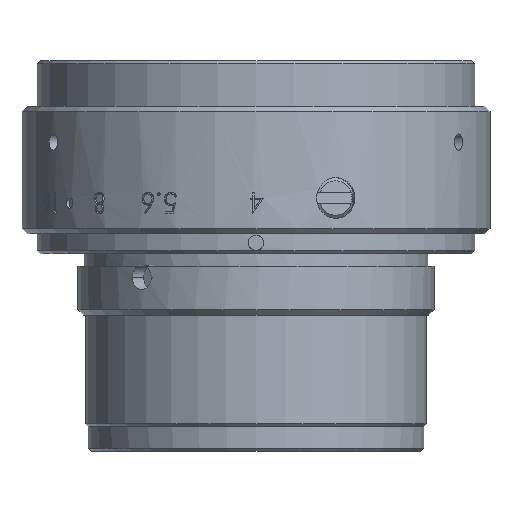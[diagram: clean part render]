
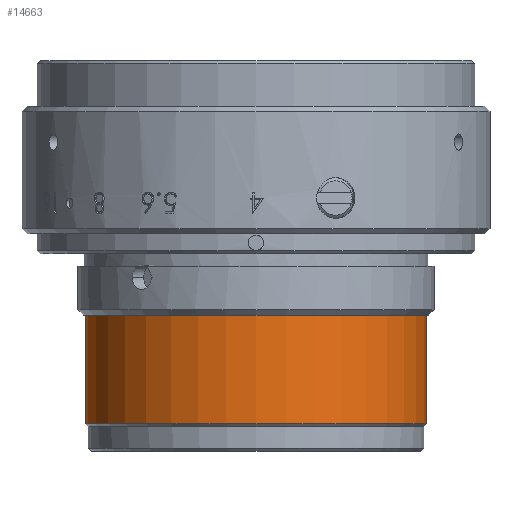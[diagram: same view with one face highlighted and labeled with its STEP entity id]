
A CAD part, front view. The second image highlights one B-rep face of the part: STEP entity #14663.
In plain terms, the highlighted cylindrical face has radius 16.75 mm (diameter 33.5 mm), a partial arc.
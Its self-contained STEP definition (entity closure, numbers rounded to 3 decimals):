
#504 = DIRECTION ( 'NONE',  ( 1., 0., 0. ) ) ;
#594 = VERTEX_POINT ( 'NONE', #26013 ) ;
#1232 = CARTESIAN_POINT ( 'NONE',  ( -16.75, 0., 16.789 ) ) ;
#1633 = EDGE_CURVE ( 'NONE', #594, #11298, #13628, .T. ) ;
#1826 = CARTESIAN_POINT ( 'NONE',  ( 16.75, 0., 16.789 ) ) ;
#1934 = CARTESIAN_POINT ( 'NONE',  ( -16.75, 0., -3.6 ) ) ;
#2342 = VERTEX_POINT ( 'NONE', #1934 ) ;
#4114 = CYLINDRICAL_SURFACE ( 'NONE', #5318, 16.75 ) ;
#4729 = CARTESIAN_POINT ( 'NONE',  ( 16.75, 0., -3.6 ) ) ;
#4966 = CIRCLE ( 'NONE', #20278, 16.75 ) ;
#5212 = LINE ( 'NONE', #1232, #18350 ) ;
#5318 = AXIS2_PLACEMENT_3D ( 'NONE', #17386, #13419, #25650 ) ;
#8949 = EDGE_CURVE ( 'NONE', #11298, #24481, #14397, .T. ) ;
#9303 = ORIENTED_EDGE ( 'NONE', *, *, #15951, .F. ) ;
#10400 = DIRECTION ( 'NONE',  ( 0., 0., 1. ) ) ;
#10811 = ORIENTED_EDGE ( 'NONE', *, *, #1633, .T. ) ;
#11298 = VERTEX_POINT ( 'NONE', #24066 ) ;
#12170 = ORIENTED_EDGE ( 'NONE', *, *, #8949, .T. ) ;
#12339 = DIRECTION ( 'NONE',  ( 1., 0., 0. ) ) ;
#12404 = DIRECTION ( 'NONE',  ( 0., 0., 1. ) ) ;
#12428 = CARTESIAN_POINT ( 'NONE',  ( 0., 0., -14.3 ) ) ;
#13252 = DIRECTION ( 'NONE',  ( 0., 0., 1. ) ) ;
#13419 = DIRECTION ( 'NONE',  ( 0., 0., 1. ) ) ;
#13628 = CIRCLE ( 'NONE', #14220, 16.75 ) ;
#13962 = ORIENTED_EDGE ( 'NONE', *, *, #24496, .F. ) ;
#14220 = AXIS2_PLACEMENT_3D ( 'NONE', #12428, #12404, #12339 ) ;
#14397 = LINE ( 'NONE', #1826, #25232 ) ;
#14663 = ADVANCED_FACE ( 'NONE', ( #15338 ), #4114, .T. ) ;
#15338 = FACE_OUTER_BOUND ( 'NONE', #19831, .T. ) ;
#15951 = EDGE_CURVE ( 'NONE', #594, #2342, #5212, .T. ) ;
#17386 = CARTESIAN_POINT ( 'NONE',  ( 0., 0., 16.789 ) ) ;
#18350 = VECTOR ( 'NONE', #24392, 1000. ) ;
#19831 = EDGE_LOOP ( 'NONE', ( #9303, #10811, #12170, #13962 ) ) ;
#20278 = AXIS2_PLACEMENT_3D ( 'NONE', #25489, #13252, #504 ) ;
#24066 = CARTESIAN_POINT ( 'NONE',  ( 16.75, 0., -14.3 ) ) ;
#24392 = DIRECTION ( 'NONE',  ( 0., 0., 1. ) ) ;
#24481 = VERTEX_POINT ( 'NONE', #4729 ) ;
#24496 = EDGE_CURVE ( 'NONE', #2342, #24481, #4966, .T. ) ;
#25232 = VECTOR ( 'NONE', #10400, 1000. ) ;
#25489 = CARTESIAN_POINT ( 'NONE',  ( 0., 0., -3.6 ) ) ;
#25650 = DIRECTION ( 'NONE',  ( 1., 0., 0. ) ) ;
#26013 = CARTESIAN_POINT ( 'NONE',  ( -16.75, 0., -14.3 ) ) ;
